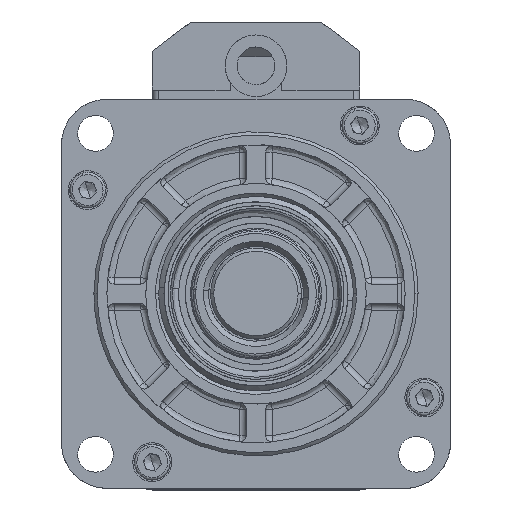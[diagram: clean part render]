
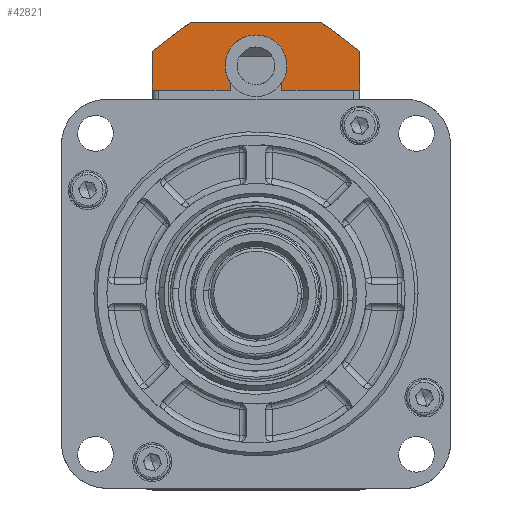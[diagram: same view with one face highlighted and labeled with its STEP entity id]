
A CAD part, top view. The second image highlights one B-rep face of the part: STEP entity #42821.
In plain terms, the highlighted free-form (B-spline) face has degree [1, 1] with [2, 2] control points.
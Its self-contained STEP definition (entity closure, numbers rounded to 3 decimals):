
#331 = CARTESIAN_POINT ( 'NONE',  ( -24.509, 27.855, 24. ) ) ;
#398 = VERTEX_POINT ( 'NONE', #43235 ) ;
#710 = CARTESIAN_POINT ( 'NONE',  ( -9.509, 35.355, 24. ) ) ;
#2898 = CARTESIAN_POINT ( 'NONE',  ( -6.31, 33.812, 24. ) ) ;
#3757 = B_SPLINE_CURVE_WITH_KNOTS ( 'NONE', 3,
 ( #710, #59422, #47849, #12607, #53709, #18488, #59674, #24402, #65520, #30318 ),
 .UNSPECIFIED., .F., .F.,
 ( 4, 2, 2, 2, 4 ),
 ( 1.571, 1.963, 2.356, 2.749, 3.142 ),
 .UNSPECIFIED. ) ;
#4042 = VERTEX_POINT ( 'NONE', #48291 ) ;
#4691 = EDGE_CURVE ( 'NONE', #55769, #398, #11145, .T. ) ;
#5530 = ORIENTED_EDGE ( 'NONE', *, *, #70339, .T. ) ;
#6463 = CARTESIAN_POINT ( 'NONE',  ( -13.509, 27.855, 24. ) ) ;
#6509 = CARTESIAN_POINT ( 'NONE',  ( 5.491, 27.855, 24. ) ) ;
#7018 = B_SPLINE_CURVE_WITH_KNOTS ( 'NONE', 3,
 ( #49773, #8591, #73361, #38213, #2898, #44109, #8845, #50019, #14788, #55911 ),
 .UNSPECIFIED., .F., .F.,
 ( 4, 2, 2, 2, 4 ),
 ( 0., 0.393, 0.785, 1.178, 1.571 ),
 .UNSPECIFIED. ) ;
#8052 = B_SPLINE_CURVE_WITH_KNOTS ( 'NONE', 1,
 ( #55818, #9248 ),
 .UNSPECIFIED., .F., .F.,
 ( 2, 2 ),
 ( 0., 1. ),
 .UNSPECIFIED. ) ;
#8527 = CARTESIAN_POINT ( 'NONE',  ( -25.509, 27.855, 24. ) ) ;
#8544 = CARTESIAN_POINT ( 'NONE',  ( -5.509, 31.355, 24. ) ) ;
#8591 = CARTESIAN_POINT ( 'NONE',  ( -5.509, 31.88, 24. ) ) ;
#8621 = ORIENTED_EDGE ( 'NONE', *, *, #43469, .T. ) ;
#8845 = CARTESIAN_POINT ( 'NONE',  ( -7.493, 34.849, 24. ) ) ;
#9248 = CARTESIAN_POINT ( 'NONE',  ( 0.491, 38.355, 24. ) ) ;
#11015 = CARTESIAN_POINT ( 'NONE',  ( 6.491, 27.855, 24. ) ) ;
#11072 = B_SPLINE_CURVE_WITH_KNOTS ( 'NONE', 1,
 ( #54362, #42320 ),
 .UNSPECIFIED., .F., .F.,
 ( 2, 2 ),
 ( 0., 1. ),
 .UNSPECIFIED. ) ;
#11145 = B_SPLINE_CURVE_WITH_KNOTS ( 'NONE', 1,
 ( #55869, #8544 ),
 .UNSPECIFIED., .F., .F.,
 ( 2, 2 ),
 ( 0., 1. ),
 .UNSPECIFIED. ) ;
#12607 = CARTESIAN_POINT ( 'NONE',  ( -11.525, 34.849, 24. ) ) ;
#13202 = B_SPLINE_CURVE_WITH_KNOTS ( 'NONE', 1,
 ( #6509, #53821 ),
 .UNSPECIFIED., .F., .F.,
 ( 2, 2 ),
 ( 0.083, 1. ),
 .UNSPECIFIED. ) ;
#13280 = EDGE_CURVE ( 'NONE', #23809, #55769, #13202, .T. ) ;
#14788 = CARTESIAN_POINT ( 'NONE',  ( -8.984, 35.355, 24. ) ) ;
#15768 = CARTESIAN_POINT ( 'NONE',  ( -23.509, 35.355, 24. ) ) ;
#16321 = CARTESIAN_POINT ( 'NONE',  ( -25.509, 33.855, 24. ) ) ;
#17412 = CARTESIAN_POINT ( 'NONE',  ( 6.491, 38.355, 24. ) ) ;
#17787 = EDGE_LOOP ( 'NONE', ( #46912, #56370, #52479, #47519, #33771, #62960, #45144, #5530, #8621, #42220, #74185, #38251, #21634 ) ) ;
#18168 = VERTEX_POINT ( 'NONE', #16321 ) ;
#18488 = CARTESIAN_POINT ( 'NONE',  ( -12.709, 33.812, 24. ) ) ;
#21634 = ORIENTED_EDGE ( 'NONE', *, *, #13280, .T. ) ;
#23780 = CARTESIAN_POINT ( 'NONE',  ( -13.509, 27.855, 24. ) ) ;
#23809 = VERTEX_POINT ( 'NONE', #50651 ) ;
#24069 = B_SPLINE_CURVE_WITH_KNOTS ( 'NONE', 1,
 ( #67956, #50532 ),
 .UNSPECIFIED., .F., .F.,
 ( 2, 2 ),
 ( 0., 1. ),
 .UNSPECIFIED. ) ;
#24402 = CARTESIAN_POINT ( 'NONE',  ( -13.406, 32.4, 24. ) ) ;
#25511 = VERTEX_POINT ( 'NONE', #48097 ) ;
#26492 = CARTESIAN_POINT ( 'NONE',  ( 6.491, 27.855, 24. ) ) ;
#27564 = CARTESIAN_POINT ( 'NONE',  ( -19.509, 38.355, 24. ) ) ;
#28882 = VERTEX_POINT ( 'NONE', #42968 ) ;
#29698 = CARTESIAN_POINT ( 'NONE',  ( 6.491, 27.855, 24. ) ) ;
#30318 = CARTESIAN_POINT ( 'NONE',  ( -13.509, 31.355, 24. ) ) ;
#30524 = B_SPLINE_CURVE_WITH_KNOTS ( 'NONE', 1,
 ( #47661, #6463 ),
 .UNSPECIFIED., .F., .F.,
 ( 2, 2 ),
 ( 0., 1. ),
 .UNSPECIFIED. ) ;
#31738 = EDGE_CURVE ( 'NONE', #28882, #45580, #11072, .T. ) ;
#32309 = EDGE_CURVE ( 'NONE', #23809, #41608, #64759, .T. ) ;
#33451 = CARTESIAN_POINT ( 'NONE',  ( 0.491, 38.355, 24. ) ) ;
#33771 = ORIENTED_EDGE ( 'NONE', *, *, #57128, .T. ) ;
#34070 = B_SPLINE_CURVE_WITH_KNOTS ( 'NONE', 3,
 ( #56899, #15768, #62784, #27564 ),
 .UNSPECIFIED., .F., .F.,
 ( 4, 4 ),
 ( 0., 1. ),
 .UNSPECIFIED. ) ;
#34401 = VERTEX_POINT ( 'NONE', #43772 ) ;
#35711 = B_SPLINE_CURVE_WITH_KNOTS ( 'NONE', 1,
 ( #23780, #331 ),
 .UNSPECIFIED., .F., .F.,
 ( 2, 2 ),
 ( 0., 0.917 ),
 .UNSPECIFIED. ) ;
#35866 = EDGE_CURVE ( 'NONE', #75585, #18168, #24069, .T. ) ;
#36756 = CARTESIAN_POINT ( 'NONE',  ( -13.509, 27.855, 24. ) ) ;
#38213 = CARTESIAN_POINT ( 'NONE',  ( -6.015, 33.371, 24. ) ) ;
#38251 = ORIENTED_EDGE ( 'NONE', *, *, #32309, .F. ) ;
#38420 = VERTEX_POINT ( 'NONE', #40239 ) ;
#39666 = EDGE_CURVE ( 'NONE', #4042, #44659, #30524, .T. ) ;
#40239 = CARTESIAN_POINT ( 'NONE',  ( -24.509, 27.855, 24. ) ) ;
#40589 = CARTESIAN_POINT ( 'NONE',  ( 6.491, 27.855, 24. ) ) ;
#41608 = VERTEX_POINT ( 'NONE', #11015 ) ;
#42220 = ORIENTED_EDGE ( 'NONE', *, *, #31738, .F. ) ;
#42320 = CARTESIAN_POINT ( 'NONE',  ( 0.491, 38.355, 24. ) ) ;
#42821 = ADVANCED_FACE ( 'NONE', ( #63215 ), #73829, .T. ) ;
#42962 = EDGE_CURVE ( 'NONE', #398, #34401, #7018, .T. ) ;
#42968 = CARTESIAN_POINT ( 'NONE',  ( 6.491, 33.855, 24. ) ) ;
#43235 = CARTESIAN_POINT ( 'NONE',  ( -5.509, 31.355, 24. ) ) ;
#43469 = EDGE_CURVE ( 'NONE', #25511, #45580, #8052, .T. ) ;
#43772 = CARTESIAN_POINT ( 'NONE',  ( -9.509, 35.355, 24. ) ) ;
#44109 = CARTESIAN_POINT ( 'NONE',  ( -7.052, 34.555, 24. ) ) ;
#44659 = VERTEX_POINT ( 'NONE', #36756 ) ;
#45144 = ORIENTED_EDGE ( 'NONE', *, *, #35866, .T. ) ;
#45580 = VERTEX_POINT ( 'NONE', #33451 ) ;
#46000 = EDGE_CURVE ( 'NONE', #75585, #38420, #53470, .T. ) ;
#46912 = ORIENTED_EDGE ( 'NONE', *, *, #4691, .T. ) ;
#47519 = ORIENTED_EDGE ( 'NONE', *, *, #39666, .T. ) ;
#47661 = CARTESIAN_POINT ( 'NONE',  ( -13.509, 31.355, 24. ) ) ;
#47849 = CARTESIAN_POINT ( 'NONE',  ( -10.555, 35.251, 24. ) ) ;
#48097 = CARTESIAN_POINT ( 'NONE',  ( -19.509, 38.355, 24. ) ) ;
#48291 = CARTESIAN_POINT ( 'NONE',  ( -13.509, 31.355, 24. ) ) ;
#49773 = CARTESIAN_POINT ( 'NONE',  ( -5.509, 31.355, 24. ) ) ;
#49934 = CARTESIAN_POINT ( 'NONE',  ( 5.491, 27.855, 24. ) ) ;
#50019 = CARTESIAN_POINT ( 'NONE',  ( -8.464, 35.251, 24. ) ) ;
#50532 = CARTESIAN_POINT ( 'NONE',  ( -25.509, 33.855, 24. ) ) ;
#50651 = CARTESIAN_POINT ( 'NONE',  ( 5.491, 27.855, 24. ) ) ;
#50814 = EDGE_CURVE ( 'NONE', #34401, #4042, #3757, .T. ) ;
#52479 = ORIENTED_EDGE ( 'NONE', *, *, #50814, .T. ) ;
#53470 = B_SPLINE_CURVE_WITH_KNOTS ( 'NONE', 1,
 ( #66060, #54247 ),
 .UNSPECIFIED., .F., .F.,
 ( 2, 2 ),
 ( 0., 0.083 ),
 .UNSPECIFIED. ) ;
#53709 = CARTESIAN_POINT ( 'NONE',  ( -11.966, 34.555, 24. ) ) ;
#53821 = CARTESIAN_POINT ( 'NONE',  ( -5.509, 27.855, 24. ) ) ;
#54247 = CARTESIAN_POINT ( 'NONE',  ( -24.509, 27.855, 24. ) ) ;
#54296 = EDGE_CURVE ( 'NONE', #41608, #28882, #71467, .T. ) ;
#54362 = CARTESIAN_POINT ( 'NONE',  ( 6.491, 33.855, 24. ) ) ;
#55769 = VERTEX_POINT ( 'NONE', #73949 ) ;
#55818 = CARTESIAN_POINT ( 'NONE',  ( -19.509, 38.355, 24. ) ) ;
#55869 = CARTESIAN_POINT ( 'NONE',  ( -5.509, 27.855, 24. ) ) ;
#55911 = CARTESIAN_POINT ( 'NONE',  ( -9.509, 35.355, 24. ) ) ;
#56370 = ORIENTED_EDGE ( 'NONE', *, *, #42962, .T. ) ;
#56899 = CARTESIAN_POINT ( 'NONE',  ( -25.509, 33.855, 24. ) ) ;
#57128 = EDGE_CURVE ( 'NONE', #44659, #38420, #35711, .T. ) ;
#59060 = CARTESIAN_POINT ( 'NONE',  ( -25.509, 38.355, 24. ) ) ;
#59422 = CARTESIAN_POINT ( 'NONE',  ( -10.035, 35.355, 24. ) ) ;
#59674 = CARTESIAN_POINT ( 'NONE',  ( -13.004, 33.371, 24. ) ) ;
#62784 = CARTESIAN_POINT ( 'NONE',  ( -21.509, 36.855, 24. ) ) ;
#62960 = ORIENTED_EDGE ( 'NONE', *, *, #46000, .F. ) ;
#63215 = FACE_OUTER_BOUND ( 'NONE', #17787, .T. ) ;
#64759 = B_SPLINE_CURVE_WITH_KNOTS ( 'NONE', 1,
 ( #49934, #26492 ),
 .UNSPECIFIED., .F., .F.,
 ( 2, 2 ),
 ( 0.917, 1. ),
 .UNSPECIFIED. ) ;
#65520 = CARTESIAN_POINT ( 'NONE',  ( -13.509, 31.88, 24. ) ) ;
#66060 = CARTESIAN_POINT ( 'NONE',  ( -25.509, 27.855, 24. ) ) ;
#67956 = CARTESIAN_POINT ( 'NONE',  ( -25.509, 27.855, 24. ) ) ;
#70339 = EDGE_CURVE ( 'NONE', #18168, #25511, #34070, .T. ) ;
#70821 = CARTESIAN_POINT ( 'NONE',  ( -25.509, 27.855, 24. ) ) ;
#71467 = B_SPLINE_CURVE_WITH_KNOTS ( 'NONE', 1,
 ( #40589, #75747 ),
 .UNSPECIFIED., .F., .F.,
 ( 2, 2 ),
 ( 0., 1. ),
 .UNSPECIFIED. ) ;
#73361 = CARTESIAN_POINT ( 'NONE',  ( -5.613, 32.4, 24. ) ) ;
#73829 = B_SPLINE_SURFACE_WITH_KNOTS ( 'NONE', 1, 1, ( 
 ( #17412, #59060 ),
 ( #29698, #70821 ) ),
 .UNSPECIFIED., .F., .F., .F.,
 ( 2, 2 ),
 ( 2, 2 ),
 ( 0., 1. ),
 ( 0., 1. ),
 .UNSPECIFIED. ) ;
#73949 = CARTESIAN_POINT ( 'NONE',  ( -5.509, 27.855, 24. ) ) ;
#74185 = ORIENTED_EDGE ( 'NONE', *, *, #54296, .F. ) ;
#75585 = VERTEX_POINT ( 'NONE', #8527 ) ;
#75747 = CARTESIAN_POINT ( 'NONE',  ( 6.491, 33.855, 24. ) ) ;
